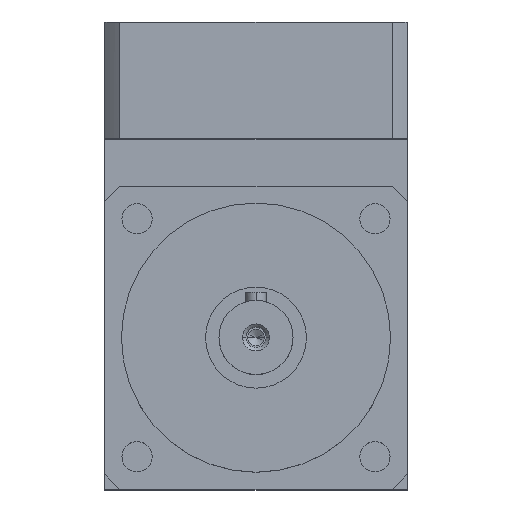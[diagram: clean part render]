
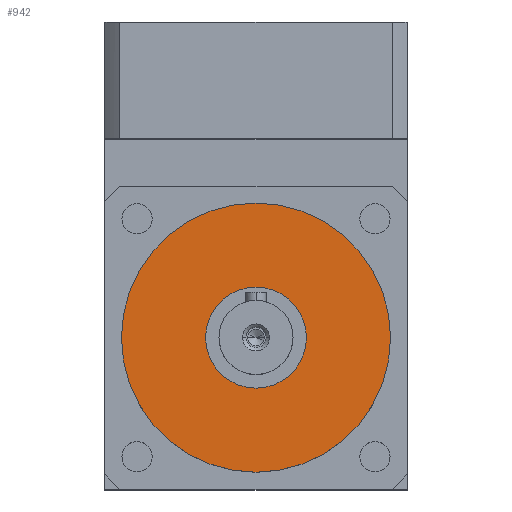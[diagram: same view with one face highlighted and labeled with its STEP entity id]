
A CAD part, top view. The second image highlights one B-rep face of the part: STEP entity #942.
In plain terms, the highlighted planar face has unit normal (0, 0, 1).
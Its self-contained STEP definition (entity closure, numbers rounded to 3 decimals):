
#446 = EDGE_CURVE ( 'NONE', #1050, #4314, #3740, .T. ) ;
#611 = VERTEX_POINT ( 'NONE', #4703 ) ;
#677 = ORIENTED_EDGE ( 'NONE', *, *, #446, .F. ) ;
#707 = CARTESIAN_POINT ( 'NONE',  ( 40.48, -40.48, 10. ) ) ;
#725 = PLANE ( 'NONE',  #3166 ) ;
#942 = ADVANCED_FACE ( 'NONE', ( #2178, #1244 ), #725, .F. ) ;
#1008 = DIRECTION ( 'NONE',  ( -1., 0., 0. ) ) ;
#1050 = VERTEX_POINT ( 'NONE', #4561 ) ;
#1244 = FACE_OUTER_BOUND ( 'NONE', #3179, .T. ) ;
#1349 = DIRECTION ( 'NONE',  ( 0., 0., -1. ) ) ;
#1357 = CARTESIAN_POINT ( 'NONE',  ( 15., 0., 10. ) ) ;
#1694 = DIRECTION ( 'NONE',  ( 0., 0., -1. ) ) ;
#2052 = EDGE_CURVE ( 'NONE', #4399, #611, #4936, .T. ) ;
#2178 = FACE_BOUND ( 'NONE', #3050, .T. ) ;
#2221 = CARTESIAN_POINT ( 'NONE',  ( 0., 0., 10. ) ) ;
#2496 = CARTESIAN_POINT ( 'NONE',  ( 0., 40., 10. ) ) ;
#2605 = DIRECTION ( 'NONE',  ( 0., 0., -1. ) ) ;
#2629 = DIRECTION ( 'NONE',  ( -1., 0., 0. ) ) ;
#2686 = ORIENTED_EDGE ( 'NONE', *, *, #3133, .F. ) ;
#2840 = AXIS2_PLACEMENT_3D ( 'NONE', #3715, #3732, #3766 ) ;
#2859 = AXIS2_PLACEMENT_3D ( 'NONE', #4115, #1694, #4517 ) ;
#3050 = EDGE_LOOP ( 'NONE', ( #4570, #4055 ) ) ;
#3133 = EDGE_CURVE ( 'NONE', #4314, #1050, #3731, .T. ) ;
#3161 = AXIS2_PLACEMENT_3D ( 'NONE', #2221, #5028, #2629 ) ;
#3166 = AXIS2_PLACEMENT_3D ( 'NONE', #707, #2605, #1008 ) ;
#3179 = EDGE_LOOP ( 'NONE', ( #2686, #677 ) ) ;
#3715 = CARTESIAN_POINT ( 'NONE',  ( 0., 0., 10. ) ) ;
#3731 = CIRCLE ( 'NONE', #2859, 40. ) ;
#3732 = DIRECTION ( 'NONE',  ( 0., 0., -1. ) ) ;
#3740 = CIRCLE ( 'NONE', #3803, 40. ) ;
#3763 = CARTESIAN_POINT ( 'NONE',  ( 0., 0., 10. ) ) ;
#3766 = DIRECTION ( 'NONE',  ( -1., 0., 0. ) ) ;
#3803 = AXIS2_PLACEMENT_3D ( 'NONE', #3763, #1349, #4159 ) ;
#4055 = ORIENTED_EDGE ( 'NONE', *, *, #2052, .T. ) ;
#4115 = CARTESIAN_POINT ( 'NONE',  ( 0., 0., 10. ) ) ;
#4159 = DIRECTION ( 'NONE',  ( 0., 1., 0. ) ) ;
#4314 = VERTEX_POINT ( 'NONE', #2496 ) ;
#4399 = VERTEX_POINT ( 'NONE', #1357 ) ;
#4424 = CIRCLE ( 'NONE', #3161, 15. ) ;
#4480 = EDGE_CURVE ( 'NONE', #611, #4399, #4424, .T. ) ;
#4517 = DIRECTION ( 'NONE',  ( 0., 1., 0. ) ) ;
#4561 = CARTESIAN_POINT ( 'NONE',  ( 0., -40., 10. ) ) ;
#4570 = ORIENTED_EDGE ( 'NONE', *, *, #4480, .T. ) ;
#4703 = CARTESIAN_POINT ( 'NONE',  ( -15., 0., 10. ) ) ;
#4936 = CIRCLE ( 'NONE', #2840, 15. ) ;
#5028 = DIRECTION ( 'NONE',  ( 0., 0., -1. ) ) ;
